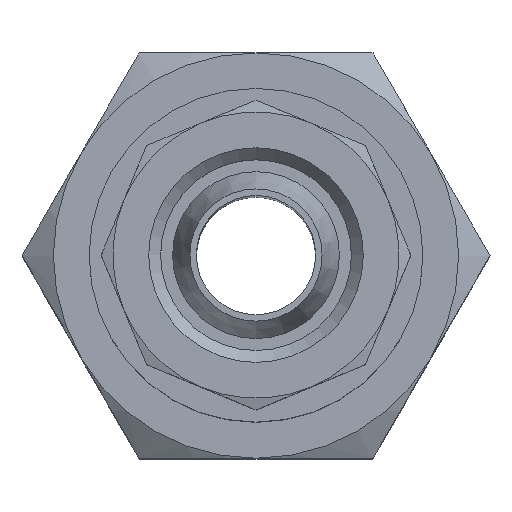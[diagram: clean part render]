
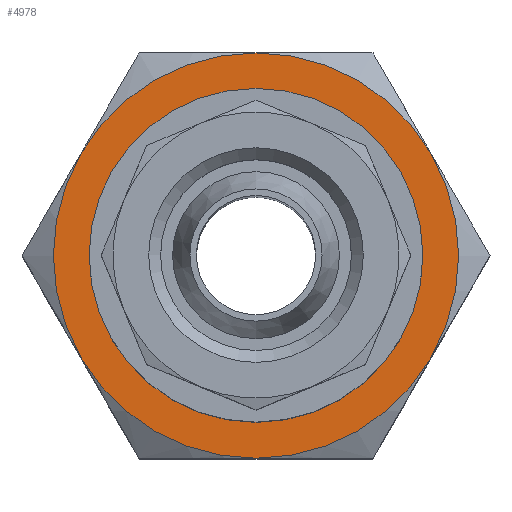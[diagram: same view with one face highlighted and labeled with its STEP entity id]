
A CAD part, top view. The second image highlights one B-rep face of the part: STEP entity #4978.
In plain terms, the highlighted planar face has unit normal (0, 0, 1).
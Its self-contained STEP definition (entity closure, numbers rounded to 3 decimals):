
#2468=ORIENTED_EDGE('',*,*,#3063,.T.);
#2469=ORIENTED_EDGE('',*,*,#3037,.T.);
#2470=ORIENTED_EDGE('',*,*,#3043,.T.);
#2471=ORIENTED_EDGE('',*,*,#3049,.T.);
#2472=ORIENTED_EDGE('',*,*,#3064,.T.);
#2473=ORIENTED_EDGE('',*,*,#3060,.T.);
#2474=ORIENTED_EDGE('',*,*,#3065,.T.);
#2809=CIRCLE('',#4667,8.5);
#2810=CIRCLE('',#4674,8.5);
#2811=CIRCLE('',#4681,8.5);
#2812=CIRCLE('',#4694,8.5);
#2813=CIRCLE('',#4699,8.5);
#2814=CIRCLE('',#4701,8.5);
#2815=CIRCLE('',#4702,6.187);
#2893=VERTEX_POINT('',#4215);
#2896=VERTEX_POINT('',#4224);
#2899=VERTEX_POINT('',#4235);
#2902=VERTEX_POINT('',#4246);
#2906=VERTEX_POINT('',#4260);
#2908=VERTEX_POINT('',#4267);
#2909=VERTEX_POINT('',#4277);
#3037=EDGE_CURVE('',#2893,#2896,#2809,.T.);
#3043=EDGE_CURVE('',#2896,#2899,#2810,.T.);
#3049=EDGE_CURVE('',#2899,#2902,#2811,.T.);
#3060=EDGE_CURVE('',#2906,#2908,#2812,.T.);
#3063=EDGE_CURVE('',#2908,#2893,#2813,.T.);
#3064=EDGE_CURVE('',#2902,#2906,#2814,.T.);
#3065=EDGE_CURVE('',#2909,#2909,#2815,.T.);
#3257=EDGE_LOOP('',(#2468,#2469,#2470,#2471,#2472,#2473));
#3258=EDGE_LOOP('',(#2474));
#3417=FACE_BOUND('',#3257,.T.);
#3418=FACE_BOUND('',#3258,.T.);
#3630=DIRECTION('',(0.,0.,1.));
#3631=DIRECTION('',(0.,8.5,0.));
#3645=DIRECTION('',(0.,0.,1.));
#3646=DIRECTION('',(0.,8.5,0.));
#3660=DIRECTION('',(0.,0.,1.));
#3661=DIRECTION('',(0.,8.5,0.));
#3688=DIRECTION('',(0.,0.,1.));
#3689=DIRECTION('',(0.,8.5,0.));
#3698=DIRECTION('',(0.,0.,1.));
#3699=DIRECTION('',(0.,8.5,0.));
#3700=DIRECTION('',(0.,0.,1.));
#3701=DIRECTION('',(0.,-1.,0.));
#3702=DIRECTION('',(0.,0.,1.));
#3703=DIRECTION('',(0.,8.5,0.));
#3704=DIRECTION('',(0.,0.,-1.));
#3705=DIRECTION('',(0.,6.187,0.));
#4215=CARTESIAN_POINT('',(-7.361,4.25,4.5));
#4224=CARTESIAN_POINT('',(-7.361,-4.25,4.5));
#4226=CARTESIAN_POINT('',(0.,0.,4.5));
#4235=CARTESIAN_POINT('',(0.,-8.5,4.5));
#4237=CARTESIAN_POINT('',(0.,0.,4.5));
#4246=CARTESIAN_POINT('',(7.361,-4.25,4.5));
#4248=CARTESIAN_POINT('',(0.,0.,4.5));
#4260=CARTESIAN_POINT('',(7.361,4.25,4.5));
#4267=CARTESIAN_POINT('',(0.,8.5,4.5));
#4269=CARTESIAN_POINT('',(0.,0.,4.5));
#4274=CARTESIAN_POINT('',(0.,0.,4.5));
#4275=CARTESIAN_POINT('',(-7.361,-4.25,4.5));
#4276=CARTESIAN_POINT('',(0.,0.,4.5));
#4277=CARTESIAN_POINT('',(0.,6.187,4.5));
#4278=CARTESIAN_POINT('',(0.,0.,4.5));
#4667=AXIS2_PLACEMENT_3D('',#4226,#3630,#3631);
#4674=AXIS2_PLACEMENT_3D('',#4237,#3645,#3646);
#4681=AXIS2_PLACEMENT_3D('',#4248,#3660,#3661);
#4694=AXIS2_PLACEMENT_3D('',#4269,#3688,#3689);
#4699=AXIS2_PLACEMENT_3D('',#4274,#3698,#3699);
#4700=AXIS2_PLACEMENT_3D('',#4275,#3700,#3701);
#4701=AXIS2_PLACEMENT_3D('',#4276,#3702,#3703);
#4702=AXIS2_PLACEMENT_3D('',#4278,#3704,#3705);
#4919=PLANE('',#4700);
#4978=ADVANCED_FACE('',(#3417,#3418),#4919,.T.);
